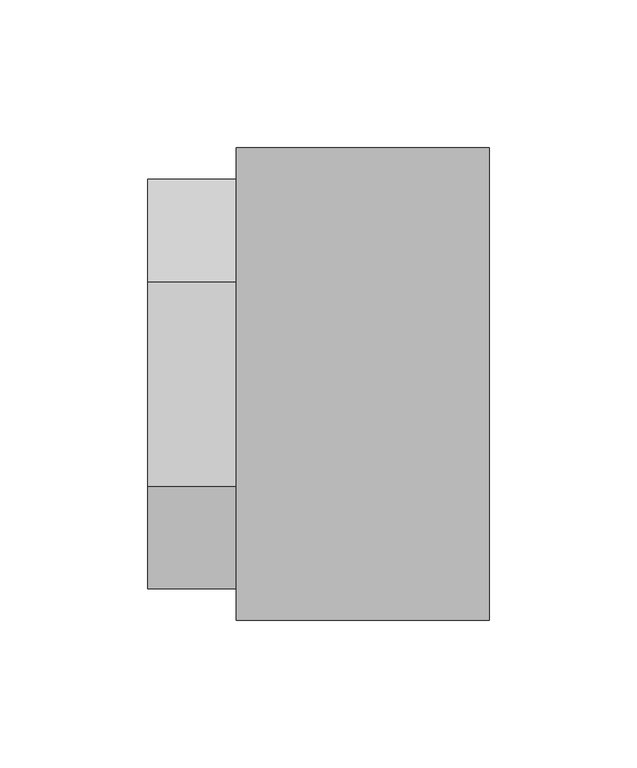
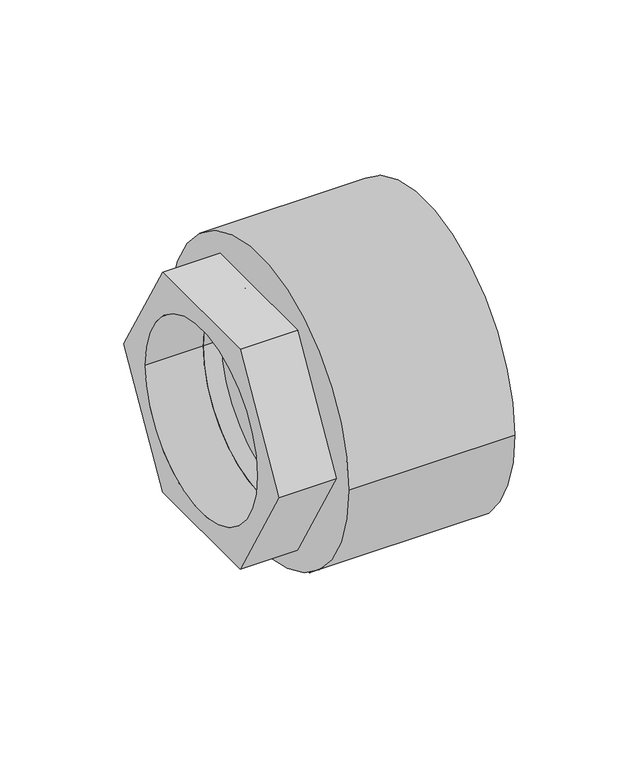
"""IFC4 building model written with IfcOpenShell, lengths in millimetres: pipe fitting geometry, NIRON RED termofusion roscado enlace rosca hembra hexagonal : Estándar."""

from ifc_helpers import new_model, si_unit, frame, origin, place, context, project, spatial, polyline, circle_curve, source, transform, mapped, element, save
from ifc_brep_helpers import plane_surface, cylinder_surface, revolved_surface, advanced_brep


def pipe_fitting_38096466(model_context):
    return source(origin(), model_context, "Body", "AdvancedBrep", [
        advanced_brep(
        [(115.6, 80.0, 0.0), (115.6, -80.0, 0.0), (30.0, 80.0, 0.0), (30.0, -80.0, 0.0), (30.0, -50.0, 0.0), (30.0, 50.0, 0.0), (39.3, 50.0, 0.0), (39.3, -50.0, 0.0)],
        [
            (0, 1, circle_curve(frame((115.6, 0.0, 0.0), z_axis=(1.0, 0.0, 0.0), x_axis=(0.0, -1.0, 0.0)), 80.0)),
            (1, 0, circle_curve(frame((115.6, 0.0, 0.0), z_axis=(1.0, 0.0, 0.0), x_axis=(0.0, -1.0, 0.0)), 80.0)),
            (2, 3, circle_curve(frame((30.0, 0.0, 0.0), z_axis=(-1.0, 0.0, 0.0), x_axis=(0.0, -1.0, 0.0)), 80.0)),
            (3, 2, circle_curve(frame((30.0, 0.0, 0.0), z_axis=(-1.0, 0.0, 0.0), x_axis=(0.0, -1.0, 0.0)), 80.0)),
            (4, 5, circle_curve(frame((30.0, 0.0, 0.0), z_axis=(1.0, 0.0, 0.0), x_axis=(0.0, -1.0, 0.0)), 50.0)),
            (5, 4, circle_curve(frame((30.0, 0.0, 0.0), z_axis=(1.0, 0.0, 0.0), x_axis=(0.0, -1.0, 0.0)), 50.0)),
            (1, 3),
            (2, 0),
            (6, 7, circle_curve(frame((39.3, 0.0, 0.0), z_axis=(-1.0, 0.0, 0.0), x_axis=(0.0, -1.0, 0.0)), 50.0)),
            (7, 6, circle_curve(frame((39.3, 0.0, 0.0), z_axis=(-1.0, 0.0, 0.0), x_axis=(0.0, -1.0, 0.0)), 50.0)),
            (6, 5),
            (4, 7),
        ],
        [
            plane_surface(frame((115.6, -80.0, 0.0), z_axis=(1.0, 0.0, 0.0), x_axis=(0.0, 0.0, -1.0))),
            plane_surface(frame((30.0, -80.0, 0.0), z_axis=(-1.0, 0.0, 0.0), x_axis=(0.0, 0.0, 1.0))),
            cylinder_surface(frame((115.6, 0.0, 0.0), z_axis=(-1.0, 0.0, 0.0), x_axis=(0.0, -1.0, 0.0)), 80.0),
            plane_surface(frame((39.3, -50.0, 0.0), z_axis=(-1.0, 0.0, 0.0), x_axis=(0.0, 0.0, -1.0))),
            revolved_surface(polyline([(30.0, -50.0, 0.0), (39.3, -50.0, 0.0)]), (39.3, 0.0, 0.0), (-1.0, 0.0, 0.0)),
        ],
        [
            (0, [[1, 2]]),
            (1, [[3, 4], [5, 6]]),
            (2, [[-2, 7, -3, 8]]),
            (2, [[-1, -8, -4, -7]]),
            (3, [[9, 10]]),
            (4, [[-9, 11, -5, 12]]),
            (4, [[-10, -12, -6, -11]]),
        ],
    ),
        advanced_brep(
        [(45.0, -34.6410162, -60.0), (45.0, 34.6410162, -60.0), (45.0, 69.2820323, 0.0), (45.0, 34.6410162, 60.0), (45.0, -34.6410162, 60.0), (45.0, -69.2820323, 0.0), (0.0, -34.6410162, -60.0), (0.0, -69.2820323, 0.0), (0.0, -34.6410162, 60.0), (0.0, 34.6410162, 60.0), (0.0, 69.2820323, 0.0), (0.0, 34.6410162, -60.0), (0.0, -50.0, 0.0), (0.0, 50.0, 0.0), (39.3, 50.0, 0.0), (39.3, -50.0, 0.0)],
        [
            (0, 1),
            (1, 2),
            (2, 3),
            (3, 4),
            (4, 5),
            (5, 0),
            (6, 7),
            (7, 8),
            (8, 9),
            (9, 10),
            (10, 11),
            (11, 6),
            (12, 13, circle_curve(frame((0.0, 0.0, 0.0), z_axis=(1.0, 0.0, 0.0), x_axis=(0.0, -1.0, 0.0)), 50.0)),
            (13, 12, circle_curve(frame((0.0, 0.0, 0.0), z_axis=(1.0, 0.0, 0.0), x_axis=(0.0, -1.0, 0.0)), 50.0)),
            (0, 6),
            (11, 1),
            (10, 2),
            (9, 3),
            (8, 4),
            (7, 5),
            (14, 15, circle_curve(frame((39.3, 0.0, 0.0), z_axis=(-1.0, 0.0, 0.0), x_axis=(0.0, -1.0, 0.0)), 50.0)),
            (15, 14, circle_curve(frame((39.3, 0.0, 0.0), z_axis=(-1.0, 0.0, 0.0), x_axis=(0.0, -1.0, 0.0)), 50.0)),
            (14, 13),
            (12, 15),
        ],
        [
            plane_surface(frame((45.0, 0.0, 0.0), z_axis=(1.0, 0.0, 0.0), x_axis=(0.0, 0.0, 1.0))),
            plane_surface(frame((0.0, 0.0, 0.0), z_axis=(-1.0, 0.0, 0.0), x_axis=(0.0, 0.0, 1.0))),
            plane_surface(frame((45.0, -34.6410162, -60.0), z_axis=(0.0, 0.0, -1.0), x_axis=(-1.0, 0.0, 0.0))),
            plane_surface(frame((45.0, 34.6410162, -60.0), z_axis=(0.0, 0.8660254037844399, -0.49999999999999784), x_axis=(-1.0, 0.0, 0.0))),
            plane_surface(frame((45.0, 69.2820323, 0.0), z_axis=(0.0, 0.866025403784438, 0.500000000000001), x_axis=(-1.0, 0.0, 0.0))),
            plane_surface(frame((45.0, 34.6410162, 60.0), z_axis=(0.0, 0.0, 1.0), x_axis=(-1.0, 0.0, 0.0))),
            plane_surface(frame((45.0, -34.6410162, 60.0), z_axis=(0.0, -0.8660254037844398, 0.499999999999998), x_axis=(-1.0, 0.0, 0.0))),
            plane_surface(frame((45.0, -69.2820323, 0.0), z_axis=(0.0, -0.8660254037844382, -0.500000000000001), x_axis=(-1.0, 0.0, 0.0))),
            plane_surface(frame((39.3, -50.0, 0.0), z_axis=(-1.0, 0.0, 0.0), x_axis=(0.0, 0.0, -1.0))),
            revolved_surface(polyline([(0.0, -50.0, 0.0), (39.3, -50.0, 0.0)]), (39.3, 0.0, 0.0), (-1.0, 0.0, 0.0)),
        ],
        [
            (0, [[1, 2, 3, 4, 5, 6]]),
            (1, [[7, 8, 9, 10, 11, 12], [13, 14]]),
            (2, [[-1, 15, -12, 16]]),
            (3, [[-2, -16, -11, 17]]),
            (4, [[-3, -17, -10, 18]]),
            (5, [[-4, -18, -9, 19]]),
            (6, [[-5, -19, -8, 20]]),
            (7, [[-6, -20, -7, -15]]),
            (8, [[21, 22]]),
            (9, [[-21, 23, -13, 24]]),
            (9, [[-22, -24, -14, -23]]),
        ],
    ),
    ])


if __name__ == "__main__":
    model = new_model("IFC4")
    model_context = context("Model", 3, world=origin())
    ifc_project = project(units=[si_unit("LENGTHUNIT", "METRE", prefix="MILLI")], contexts=[model_context])
    site = spatial("IfcSite", under=ifc_project)
    building = spatial("IfcBuilding", under=site)
    placement = place(None, origin())
    pipe_fitting_shape = pipe_fitting_38096466(model_context)
    element("IfcPipeFitting", 1, ObjectType="NIRON RED termofusion roscado enlace rosca hembra hexagonal : Estándar", at=placement, inside=building, context=model_context, shape_type="MappedRepresentation", body=[
        mapped(pipe_fitting_shape, transform((0.0, 0.0, 0.0), x_axis=(1.0, 0.0, 0.0), y_axis=(0.0, 1.0, 0.0), z_axis=(0.0, 0.0, 1.0))),
    ])
    save(model, "model.ifc")
